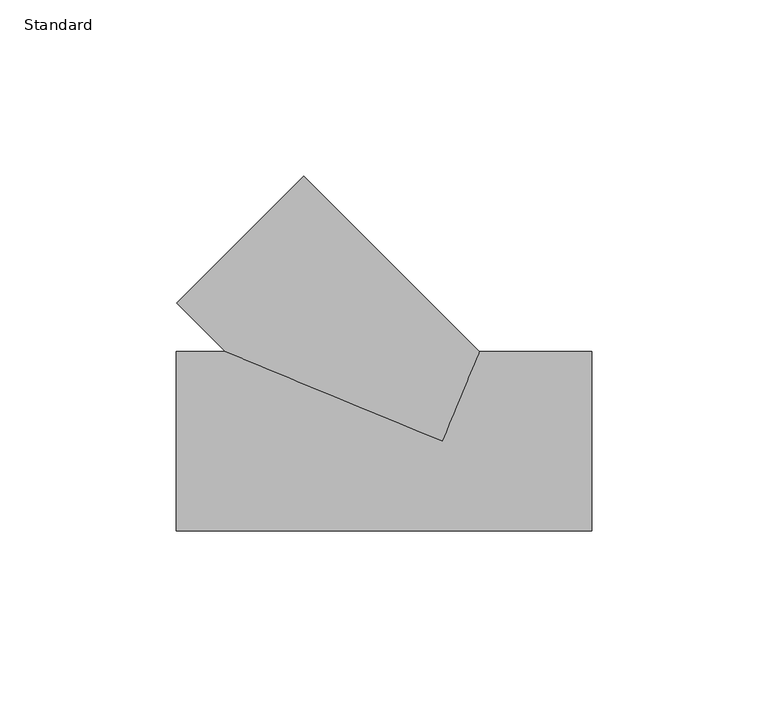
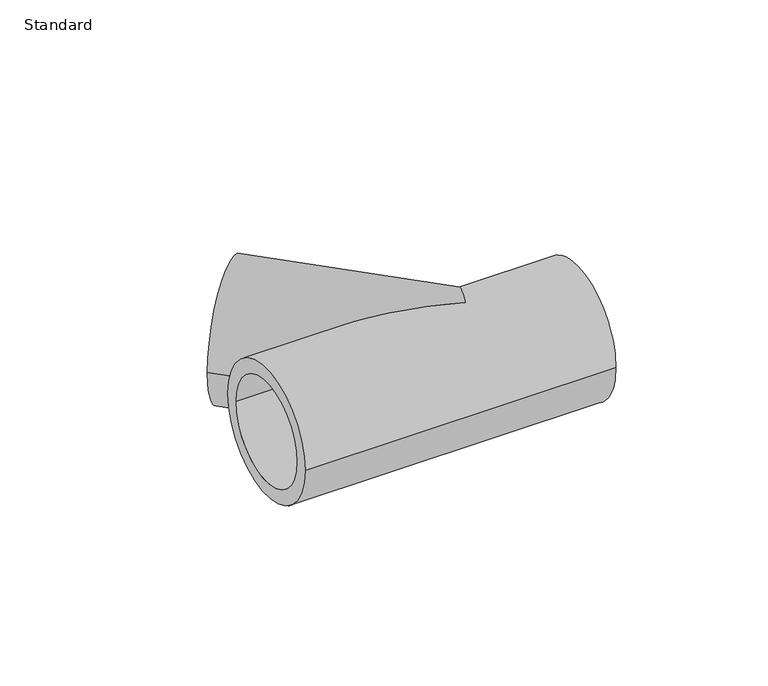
"""IFC4 building model written with IfcOpenShell, lengths in millimetres: pipe fitting geometry, Durapipe_PipeFitting_PVC_Tee45deg : Standard."""

from ifc_helpers import new_model, si_unit, frame, origin, place, context, project, spatial, polyline, circle_curve, ellipse_curve, source, transform, mapped, element, save
from ifc_brep_helpers import plane_surface, cylinder_surface, revolved_surface, advanced_brep


def standard_e7fcc8b7(model_context):
    return source(origin(), model_context, "Body", "AdvancedBrep", [
        advanced_brep(
        [(-75.3068722, 39.2444264, 0.0), (-39.2444264, 75.3068722, 0.0), (-71.4177849, 43.1335137, 0.0), (-43.1335137, 71.4177849, 0.0), (-61.5624458, 25.5, 0.0), (0.0, 0.0, 25.5), (10.5624458, 25.5, 0.0), (0.0, 0.0, -25.5), (-75.5, -25.5, 0.0), (-75.5, 25.5, 0.0), (-75.5, -20.0, 0.0), (-75.5, 20.0, 0.0), (42.5, -25.5, 0.0), (42.5, 25.5, 0.0), (42.5, 20.0, 0.0), (42.5, -20.0, 0.0), (-38.890873, 38.890873, 0.0), (-24.7487373, 53.0330086, 0.0), (-53.0330086, 24.7487373, 0.0), (-44.0, -20.0, 0.0), (-44.0, 0.0, 0.0), (-44.0, 20.0, 0.0), (11.0, -20.0, 0.0), (11.0, 20.0, 0.0), (11.0, 0.0, 0.0)],
        [
            (0, 1, circle_curve(frame((-57.2756493, 57.2756493, 0.0), z_axis=(-0.7071067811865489, 0.7071067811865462, 0.0), x_axis=(0.7071067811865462, 0.7071067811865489, 0.0)), 25.5)),
            (1, 0, circle_curve(frame((-57.2756493, 57.2756493, 0.0), z_axis=(-0.7071067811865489, 0.7071067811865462, 0.0), x_axis=(0.7071067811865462, 0.7071067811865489, 0.0)), 25.5)),
            (2, 3, circle_curve(frame((-57.2756493, 57.2756493, 0.0), z_axis=(0.7071067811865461, -0.707106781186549, 0.0), x_axis=(-0.707106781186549, -0.7071067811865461, 0.0)), 20.0)),
            (3, 2, circle_curve(frame((-57.2756493, 57.2756493, 0.0), z_axis=(0.7071067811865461, -0.707106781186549, 0.0), x_axis=(-0.707106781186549, -0.7071067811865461, 0.0)), 20.0)),
            (0, 4),
            (4, 5, ellipse_curve(frame((0.0, 0.0, 0.0), z_axis=(0.38268343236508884, 0.9238795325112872, 0.0), x_axis=(-0.9238795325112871, 0.38268343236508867, 0.0)), 66.6347112, 25.5)),
            (5, 6, ellipse_curve(frame((0.0, 0.0, 0.0), z_axis=(-0.9238795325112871, 0.38268343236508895, 0.0), x_axis=(0.3826834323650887, 0.9238795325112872, 0.0)), 27.6010011, 25.5)),
            (6, 1),
            (6, 7, ellipse_curve(frame((0.0, 0.0, 0.0), z_axis=(-0.9238795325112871, 0.38268343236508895, 0.0), x_axis=(0.3826834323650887, 0.9238795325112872, 0.0)), 27.6010011, 25.5)),
            (7, 4, ellipse_curve(frame((0.0, 0.0, 0.0), z_axis=(0.38268343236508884, 0.9238795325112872, 0.0), x_axis=(-0.9238795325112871, 0.38268343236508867, 0.0)), 66.6347112, 25.5)),
            (8, 9, circle_curve(frame((-75.5, 0.0, 0.0), z_axis=(-1.0, 0.0, 0.0), x_axis=(0.0, 1.0, 0.0)), 25.5)),
            (9, 8, circle_curve(frame((-75.5, 0.0, 0.0), z_axis=(-1.0, 0.0, 0.0), x_axis=(0.0, 1.0, 0.0)), 25.5)),
            (10, 11, circle_curve(frame((-75.5, 0.0, 0.0), z_axis=(1.0, 0.0, 0.0), x_axis=(0.0, 1.0, 0.0)), 20.0)),
            (11, 10, circle_curve(frame((-75.5, 0.0, 0.0), z_axis=(1.0, 0.0, 0.0), x_axis=(0.0, 1.0, 0.0)), 20.0)),
            (12, 13, circle_curve(frame((42.5, 0.0, 0.0), z_axis=(1.0, 0.0, 0.0), x_axis=(0.0, 1.0, 0.0)), 25.5)),
            (13, 12, circle_curve(frame((42.5, 0.0, 0.0), z_axis=(1.0, 0.0, 0.0), x_axis=(0.0, 1.0, 0.0)), 25.5)),
            (14, 15, circle_curve(frame((42.5, 0.0, 0.0), z_axis=(-1.0, 0.0, 0.0), x_axis=(0.0, 1.0, 0.0)), 20.0)),
            (15, 14, circle_curve(frame((42.5, 0.0, 0.0), z_axis=(-1.0, 0.0, 0.0), x_axis=(0.0, 1.0, 0.0)), 20.0)),
            (8, 12),
            (13, 6),
            (4, 9),
            (16, 17),
            (17, 18, circle_curve(frame((-38.890873, 38.890873, 0.0), z_axis=(-0.7071067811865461, 0.707106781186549, 0.0), x_axis=(-0.707106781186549, -0.7071067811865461, 0.0)), 20.0)),
            (18, 16),
            (18, 17, circle_curve(frame((-38.890873, 38.890873, 0.0), z_axis=(-0.7071067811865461, 0.707106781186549, 0.0), x_axis=(-0.707106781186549, -0.7071067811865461, 0.0)), 20.0)),
            (17, 3),
            (2, 18),
            (19, 20),
            (20, 21),
            (21, 19, circle_curve(frame((-44.0, 0.0, 0.0), z_axis=(-1.0, 0.0, 0.0), x_axis=(0.0, 1.0, 0.0)), 20.0)),
            (19, 21, circle_curve(frame((-44.0, 0.0, 0.0), z_axis=(-1.0, 0.0, 0.0), x_axis=(0.0, 1.0, 0.0)), 20.0)),
            (21, 11),
            (10, 19),
            (22, 15),
            (14, 23),
            (23, 22, circle_curve(frame((11.0, 0.0, 0.0), z_axis=(-1.0, 0.0, 0.0), x_axis=(0.0, 1.0, 0.0)), 20.0)),
            (22, 23, circle_curve(frame((11.0, 0.0, 0.0), z_axis=(-1.0, 0.0, 0.0), x_axis=(0.0, 1.0, 0.0)), 20.0)),
            (23, 24),
            (24, 22),
        ],
        [
            plane_surface(frame((-57.2756493, 57.2756493, 0.0), z_axis=(-0.7071067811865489, 0.7071067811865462, 0.0), x_axis=(0.0, 0.0, 1.0))),
            cylinder_surface(frame((-57.2756493, 57.2756493, 0.0), z_axis=(-0.7071067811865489, 0.7071067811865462, 0.0), x_axis=(0.7071067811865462, 0.7071067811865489, 0.0)), 25.5),
            plane_surface(frame((-75.5, 0.0, 0.0), z_axis=(-1.0, 0.0, 0.0), x_axis=(0.0, 0.0, 1.0))),
            plane_surface(frame((42.5, 0.0, 0.0), z_axis=(1.0, 0.0, 0.0), x_axis=(0.0, 0.0, 1.0))),
            cylinder_surface(frame((-75.5, 0.0, 0.0), z_axis=(-1.0, 0.0, 0.0), x_axis=(0.0, 1.0, 0.0)), 25.5),
            plane_surface(frame((-38.890873, 38.890873, 0.0), z_axis=(-0.7071067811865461, 0.707106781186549, 0.0), x_axis=(-0.707106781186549, -0.7071067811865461, 0.0))),
            revolved_surface(polyline([(-53.033008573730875, 24.748737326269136, 0.0), (-71.41778492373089, 43.13351367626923, 0.0)]), (0.0, 0.0, 0.0), (0.7071067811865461, -0.707106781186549, 0.0)),
            plane_surface(frame((-44.0, 0.0, 0.0), z_axis=(-1.0, 0.0, 0.0), x_axis=(0.0, 1.0, 0.0))),
            revolved_surface(polyline([(-75.5, 20.0, 0.0), (-44.0, 20.0, 0.0)]), (2018.5, 0.0, 0.0), (-1.0, 0.0, 0.0)),
            revolved_surface(polyline([(11.0, 20.0, 0.0), (42.5, 20.0, 0.0)]), (1987.5, 0.0, 0.0), (-1.0, 0.0, 0.0)),
            plane_surface(frame((11.0, 0.0, 0.0), z_axis=(1.0, 0.0, 0.0), x_axis=(0.0, 1.0, 0.0))),
        ],
        [
            (0, [[1, 2], [3, 4]]),
            (1, [[-1, 5, 6, 7, 8]]),
            (1, [[-2, -8, 9, 10, -5]]),
            (2, [[11, 12], [13, 14]]),
            (3, [[15, 16], [17, 18]]),
            (4, [[-11, 19, -16, 20, -7, -6, 21]]),
            (4, [[-12, -21, -10, -9, -20, -15, -19]]),
            (5, [[22, 23, 24]]),
            (5, [[-22, -24, 25]]),
            (6, [[-23, 26, -3, 27]]),
            (6, [[-25, -27, -4, -26]]),
            (7, [[28, 29, 30]]),
            (7, [[-28, 31, -29]]),
            (8, [[-30, 32, -13, 33]]),
            (8, [[-31, -33, -14, -32]]),
            (9, [[34, -17, 35, 36]]),
            (9, [[-34, 37, -35, -18]]),
            (10, [[-36, 38, 39]]),
            (10, [[-37, -39, -38]]),
        ],
    ),
    ])


if __name__ == "__main__":
    model = new_model("IFC4")
    model_context = context("Model", 3, world=origin())
    ifc_project = project(units=[si_unit("LENGTHUNIT", "METRE", prefix="MILLI")], contexts=[model_context])
    site = spatial("IfcSite", under=ifc_project)
    building = spatial("IfcBuilding", under=site)
    placement = place(None, origin())
    standard_shape = standard_e7fcc8b7(model_context)
    element("IfcPipeFitting", 1, ObjectType="Durapipe_PipeFitting_PVC_Tee45deg : Standard", at=placement, inside=building, context=model_context, shape_type="MappedRepresentation", body=[
        mapped(standard_shape, transform((0.0, 0.0, 0.0), x_axis=(1.0, 0.0, 0.0), y_axis=(0.0, 1.0, 0.0), z_axis=(0.0, 0.0, 1.0))),
    ])
    save(model, "model.ifc")
